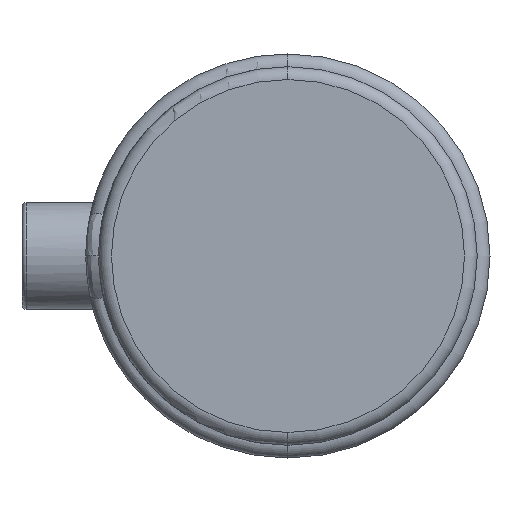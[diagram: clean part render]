
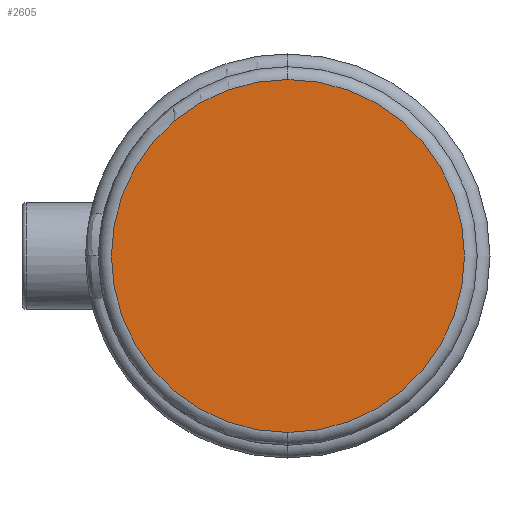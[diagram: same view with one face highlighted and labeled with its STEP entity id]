
A CAD part, left-side view. The second image highlights one B-rep face of the part: STEP entity #2605.
In plain terms, the highlighted planar face has unit normal (-1, 0, 0).
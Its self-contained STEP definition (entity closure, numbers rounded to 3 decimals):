
#73 = CARTESIAN_POINT ( 'NONE',  ( 0., 0., -41.45 ) ) ;
#492 = CIRCLE ( 'NONE', #3933, 41.45 ) ;
#525 = CARTESIAN_POINT ( 'NONE',  ( 0., 0., 41.45 ) ) ;
#586 = PLANE ( 'NONE',  #3334 ) ;
#587 = DIRECTION ( 'NONE',  ( -1., 0., 0. ) ) ;
#1049 = DIRECTION ( 'NONE',  ( -1., 0., 0. ) ) ;
#2487 = DIRECTION ( 'NONE',  ( -1., 0., 0. ) ) ;
#2543 = ORIENTED_EDGE ( 'NONE', *, *, #3708, .T. ) ;
#2558 = VERTEX_POINT ( 'NONE', #73 ) ;
#2564 = ORIENTED_EDGE ( 'NONE', *, *, #5505, .T. ) ;
#2595 = AXIS2_PLACEMENT_3D ( 'NONE', #3410, #587, #3893 ) ;
#2605 = ADVANCED_FACE ( 'NONE', ( #5462 ), #586, .T. ) ;
#3055 = VERTEX_POINT ( 'NONE', #525 ) ;
#3334 = AXIS2_PLACEMENT_3D ( 'NONE', #3409, #1049, #4348 ) ;
#3409 = CARTESIAN_POINT ( 'NONE',  ( 0., 0., 0. ) ) ;
#3410 = CARTESIAN_POINT ( 'NONE',  ( 0., 0., 0. ) ) ;
#3412 = EDGE_LOOP ( 'NONE', ( #2543, #2564 ) ) ;
#3708 = EDGE_CURVE ( 'NONE', #3055, #2558, #492, .T. ) ;
#3893 = DIRECTION ( 'NONE',  ( 0., 0., 1. ) ) ;
#3933 = AXIS2_PLACEMENT_3D ( 'NONE', #5278, #2487, #5715 ) ;
#4348 = DIRECTION ( 'NONE',  ( 0., 0., 1. ) ) ;
#5278 = CARTESIAN_POINT ( 'NONE',  ( 0., 0., 0. ) ) ;
#5462 = FACE_OUTER_BOUND ( 'NONE', #3412, .T. ) ;
#5505 = EDGE_CURVE ( 'NONE', #2558, #3055, #5517, .T. ) ;
#5517 = CIRCLE ( 'NONE', #2595, 41.45 ) ;
#5715 = DIRECTION ( 'NONE',  ( 0., 0., 1. ) ) ;
